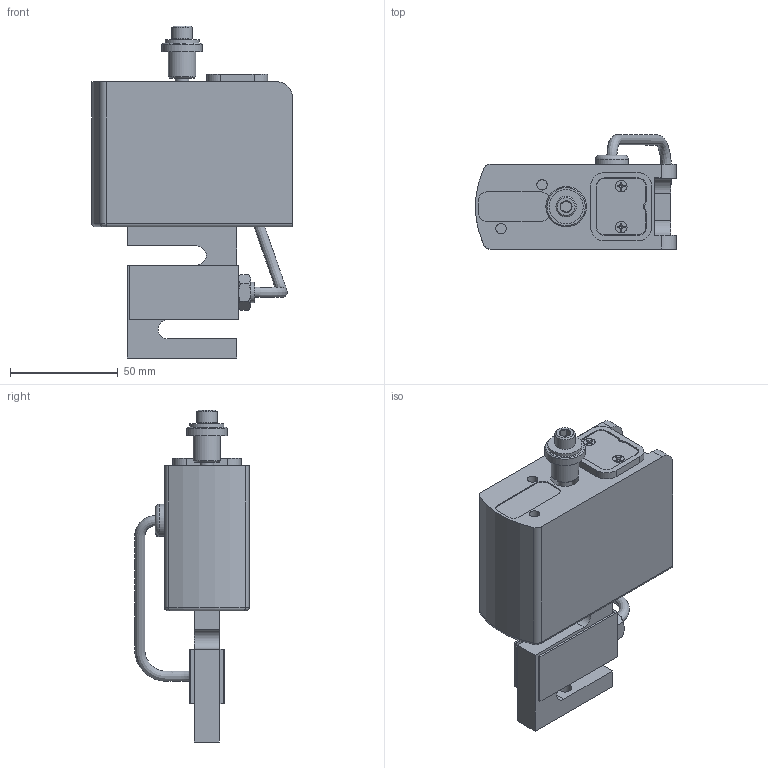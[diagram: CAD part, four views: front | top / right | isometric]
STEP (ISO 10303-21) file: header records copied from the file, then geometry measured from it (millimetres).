
FILE_DESCRIPTION(/* description */ (''),/* implementation_level */ '2;1');
FILE_NAME(/* name */ 'F:\SHARED FILES\NICHOLAS TAKAKI\FS06\FS06-50 - FS06-200\FS06-50 - FS06-200.stp',/* time_stamp */ '2022-05-09T11:19:40-04:00',/* author */ ('ntakaki'),/* organization */ (''),/* preprocessor_version */ 'ST-DEVELOPER v18.1',/* originating_system */ 'AutoCAD Mechanical',/* authorisation */ '');
FILE_SCHEMA (('AUTOMOTIVE_DESIGN { 1 0 10303 214 3 1 1 }'));
Length unit declared in the file: inch
Products named in the file (1): Product
Bounding box: 93.18 x 53.21 x 154.23 mm (x, y, z)
Volume: 267757.6 mm3; surface area: 55437.6 mm2
Topology: 16 solids, 16 shells, 441 faces, 1163 edges, 771 vertices
Faces by surface type: cylinder 188, plane 170, cone 65, bspline 13, torus 5
Full cylindrical faces by diameter (mm): 1.986 x10, 2.02 x10, 2.845 x26, 3.175 x2, 4.826 x2, 5.172 x26, 6.35 x30, 6.477 x2, 6.756 x1, 7.137 x1, 9.525 x4, 12.7 x1, 13.096 x1, 15.875 x1, 18.796 x1
Entity records: 25113 total; most frequent: CARTESIAN_POINT 14880, ORIENTED_EDGE 2322, DIRECTION 1896, EDGE_CURVE 1161, VERTEX_POINT 771, AXIS2_PLACEMENT_3D 702, LINE 492, VECTOR 492
